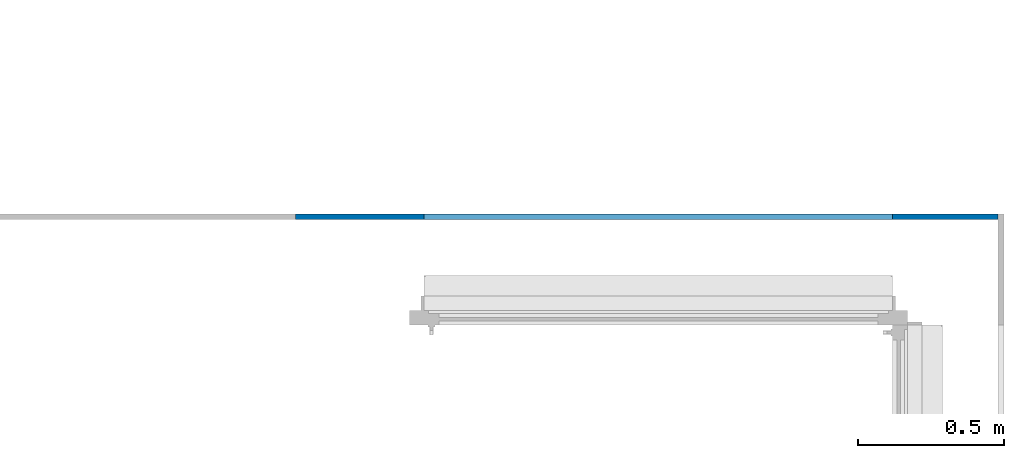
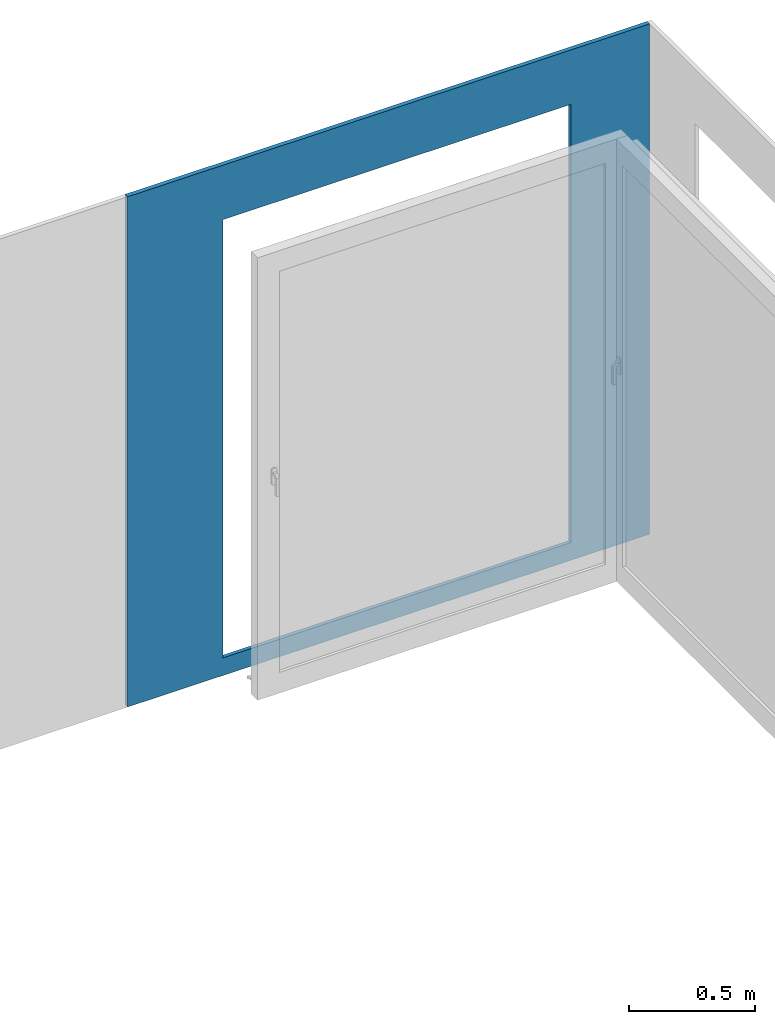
# One storey, part 2 of 6: 1 wall, 3 openings.
"""IFC2X3 building model written with IfcOpenShell, lengths in centimetres."""

from ifc_helpers import new_model, entity, si_unit, converted_unit, derived_unit, direction, frame, frame_2d, origin, place, context, subcontext, project, spatial, rectangle, extrude, clip, halfspace, faceted_brep, material, layer, layer_set, layer_usage, type_object, element, save


model = new_model("IFC2X3")

# Units and contexts
model_context = context("Model", 3, precision=0.001, world=origin(), true_north=direction((6.12303176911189e-17, 1.0)))
body_context = subcontext(model_context, "Body", "Model", "MODEL_VIEW")
ifc_project = project(units=[si_unit("LENGTHUNIT", "METRE", prefix="CENTI"), si_unit("AREAUNIT", "SQUARE_METRE"), si_unit("VOLUMEUNIT", "CUBIC_METRE"), converted_unit("PLANEANGLEUNIT", "DEGREE", entity("IfcRatioMeasure", 0.0174532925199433), si_unit("PLANEANGLEUNIT", "RADIAN"), dimensions=[0, 0, 0, 0, 0, 0, 0]), si_unit("MASSUNIT", "GRAM", prefix="KILO"), derived_unit("MASSDENSITYUNIT", [(si_unit("MASSUNIT", "GRAM", prefix="KILO"), 1), (si_unit("LENGTHUNIT", "METRE"), -3)]), derived_unit("MOMENTOFINERTIAUNIT", [(si_unit("LENGTHUNIT", "METRE"), 4)]), si_unit("TIMEUNIT", "SECOND"), si_unit("FREQUENCYUNIT", "HERTZ"), si_unit("THERMODYNAMICTEMPERATUREUNIT", "DEGREE_CELSIUS"), derived_unit("THERMALTRANSMITTANCEUNIT", [(si_unit("MASSUNIT", "GRAM", prefix="KILO"), 1), (si_unit("THERMODYNAMICTEMPERATUREUNIT", "KELVIN"), -1), (si_unit("TIMEUNIT", "SECOND"), -3)]), derived_unit("VOLUMETRICFLOWRATEUNIT", [(si_unit("LENGTHUNIT", "METRE"), 3), (si_unit("TIMEUNIT", "SECOND"), -1)]), si_unit("ELECTRICCURRENTUNIT", "AMPERE"), si_unit("ELECTRICVOLTAGEUNIT", "VOLT"), si_unit("POWERUNIT", "WATT"), si_unit("FORCEUNIT", "NEWTON", prefix="KILO"), si_unit("ILLUMINANCEUNIT", "LUX"), si_unit("LUMINOUSFLUXUNIT", "LUMEN"), si_unit("LUMINOUSINTENSITYUNIT", "CANDELA"), derived_unit("USERDEFINED", [(si_unit("MASSUNIT", "GRAM", prefix="KILO"), -1), (si_unit("LENGTHUNIT", "METRE"), -2), (si_unit("TIMEUNIT", "SECOND"), 3), (si_unit("LUMINOUSFLUXUNIT", "LUMEN"), 1)]), derived_unit("LINEARVELOCITYUNIT", [(si_unit("LENGTHUNIT", "METRE"), 1), (si_unit("TIMEUNIT", "SECOND"), -1)]), si_unit("PRESSUREUNIT", "PASCAL"), derived_unit("USERDEFINED", [(si_unit("LENGTHUNIT", "METRE"), -2), (si_unit("MASSUNIT", "GRAM", prefix="KILO"), 1), (si_unit("TIMEUNIT", "SECOND"), -2)]), derived_unit("LINEARFORCEUNIT", [(si_unit("MASSUNIT", "GRAM", prefix="KILO"), 1), (si_unit("LENGTHUNIT", "METRE"), 1), (si_unit("TIMEUNIT", "SECOND"), -2), (si_unit("LENGTHUNIT", "METRE"), -1)]), derived_unit("PLANARFORCEUNIT", [(si_unit("MASSUNIT", "GRAM", prefix="KILO"), 1), (si_unit("LENGTHUNIT", "METRE"), 1), (si_unit("TIMEUNIT", "SECOND"), -2), (si_unit("LENGTHUNIT", "METRE"), -2)])], contexts=[model_context])

# Site, building, storey
site_placement = place(None, origin())
site = spatial("IfcSite", under=ifc_project, at=site_placement, Name="Surface", CompositionType="ELEMENT")
building_placement = place(site_placement, origin())
building = spatial("IfcBuilding", under=site, at=building_placement, CompositionType="ELEMENT")
storey_placement = place(building_placement, origin())
storey = spatial("IfcBuildingStorey", under=building, at=storey_placement, Name="1_Rez-de-chaussée", CompositionType="ELEMENT", Elevation=-7.93413063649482e-11)

# Wall, openings
ifc_material = material(Name="Maçonnerie - Enduit")
ifc_layer = layer(ifc_material, 2.0)
ifc_layer_set = layer_set([ifc_layer], Name="Mur de base:Enduit 2")
ifc_layer_usage = layer_usage(ifc_layer_set, "AXIS2", "POSITIVE", -1.0)
wall_type = type_object("IfcWallType", Name="Mur de base:Enduit 2", PredefinedType="STANDARD", material=ifc_layer_set)
wall_placement = place(storey_placement, frame((-652.177260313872, 722.992317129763, -8.0), z_axis=(0.0, 0.0, 1.0), x_axis=(-1.0, 0.0, 0.0)))
wall = element("IfcWallStandardCase", 1, at=wall_placement, inside=storey, type_object=wall_type, material=ifc_layer_usage, Name="Mur de base:Enduit 2", ObjectType="Mur de base:Enduit 2", context=body_context, shape_type="Clipping", body=[
    clip(extrude(rectangle(XDim=239.999999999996, YDim=1.99999999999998, at=frame_2d((119.999999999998, 7.27196081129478e-15), x_axis=(-1.0, 0.0))), origin(), (0.0, 0.0, 1.0), 248.0), halfspace(frame((0.0, 0.0, -8.0)), True)),
])
opening_1_placement = place(wall_placement, frame((643.0, 79.0, 8.0)))
element("IfcOpeningElement", 2, at=opening_1_placement, cuts=wall, Name="Mur de base:Enduit 2", ObjectType="Opening", context=body_context, shape_type="Brep", body=[
    faceted_brep([(-5.0, -50.0, 3.50000000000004), (-5.0, -52.0, 3.50000000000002), (-5.0, -52.0, 213.5), (-5.0, -100.0, 213.5), (-5.0, -100.0, 0.0), (-5.0, -83.3002755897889, 0.0), (-245.0, 0.0, 3.50000000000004), (-245.0, -42.0, 3.50000000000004), (-245.0, -42.0, 213.5), (-245.0, 0.0, 213.5), (-5.0, 0.0, 3.50000000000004), (-5.0, -42.0, 3.50000000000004), (0.0, -42.0, 3.50000000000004), (0.0, -47.0, 3.50000000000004), (-4.0, -47.0, 3.50000000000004), (-4.0, -52.0, 3.50000000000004), (-245.0, -50.0, 3.50000000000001), (-245.0, -52.0, 3.50000000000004), (-246.0, -52.0, 3.50000000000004), (-246.0, -47.0, 3.50000000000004), (-250.0, -47.0, 3.50000000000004), (-250.0, -42.0, 3.50000000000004), (-5.0, 0.0, 213.5), (-245.0, -52.0, 213.5), (-245.0, -100.0, 213.5), (-245.0, -100.0, 0.0), (-245.0, -83.3002755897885, 0.0), (0.0, -42.0, 218.5), (0.0, -47.0, 218.5), (-250.0, -47.0, 218.5), (-246.0, -47.0, 214.5), (-4.0, -47.0, 214.5), (-4.0, -52.0, 214.5), (-246.0, -52.0, 214.5), (-5.0, -42.0, 213.5), (-250.0, -42.0, 218.5)], [[[0, 1, 2, 3, 4, 5]], [[6, 7, 8, 9]], [[10, 11, 12, 13, 14, 15, 1, 0, 16, 17, 18, 19, 20, 21, 7, 6]], [[10, 6, 9, 22]], [[3, 2, 23, 24]], [[3, 24, 25, 4]], [[4, 25, 26, 5]], [[5, 26, 16, 0]], [[12, 27, 28, 13]], [[13, 28, 29, 20, 19, 30, 31, 14]], [[14, 31, 32, 15]], [[15, 32, 33, 18, 17, 23, 2, 1]], [[11, 34, 8, 7, 21, 35, 27, 12]], [[27, 35, 29, 28]], [[30, 33, 32, 31]], [[29, 35, 21, 20]], [[19, 18, 33, 30]], [[9, 8, 34, 22]], [[24, 23, 17, 16, 26, 25]], [[22, 34, 11, 10]]]),
])
opening_2_placement = place(wall_placement, frame((201.0, 79.0, 8.0)))
element("IfcOpeningElement", 3, at=opening_2_placement, cuts=wall, Name="Mur de base:Enduit 2", ObjectType="Opening", context=body_context, shape_type="Brep", body=[
    faceted_brep([(-5.0, -50.0, 3.50000000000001), (-5.0, -52.0, 3.5), (-5.0, -52.0, 213.5), (-5.0, -100.0, 213.5), (-5.0, -100.0, 0.0), (-5.0, -83.3002755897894, 0.0), (-165.0, 0.0, 3.50000000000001), (-165.0, -42.0, 3.50000000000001), (-165.0, -42.0, 213.5), (-165.0, 0.0, 213.5), (-5.0, 0.0, 3.50000000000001), (-5.0, -42.0, 3.50000000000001), (0.0, -42.0, 3.50000000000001), (0.0, -47.0, 3.50000000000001), (-4.0, -47.0, 3.50000000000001), (-4.0, -52.0, 3.50000000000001), (-165.0, -50.0, 3.49999999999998), (-165.0, -52.0, 3.50000000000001), (-166.0, -52.0, 3.50000000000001), (-166.0, -47.0, 3.50000000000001), (-170.0, -47.0, 3.50000000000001), (-170.0, -42.0, 3.50000000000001), (-5.0, 0.0, 213.5), (-165.0, -52.0, 213.5), (-165.0, -100.0, 213.5), (-165.0, -100.0, 0.0), (-165.0, -83.3002755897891, 0.0), (0.0, -42.0, 218.5), (0.0, -47.0, 218.5), (-170.0, -47.0, 218.5), (-166.0, -47.0, 214.5), (-4.0, -47.0, 214.5), (-4.0, -52.0, 214.5), (-166.0, -52.0, 214.5), (-5.0, -42.0, 213.5), (-170.0, -42.0, 218.5)], [[[0, 1, 2, 3, 4, 5]], [[6, 7, 8, 9]], [[10, 11, 12, 13, 14, 15, 1, 0, 16, 17, 18, 19, 20, 21, 7, 6]], [[10, 6, 9, 22]], [[3, 2, 23, 24]], [[3, 24, 25, 4]], [[4, 25, 26, 5]], [[5, 26, 16, 0]], [[12, 27, 28, 13]], [[13, 28, 29, 20, 19, 30, 31, 14]], [[14, 31, 32, 15]], [[15, 32, 33, 18, 17, 23, 2, 1]], [[11, 34, 8, 7, 21, 35, 27, 12]], [[27, 35, 29, 28]], [[30, 33, 32, 31]], [[29, 35, 21, 20]], [[19, 18, 33, 30]], [[9, 8, 34, 22]], [[24, 23, 17, 16, 26, 25]], [[22, 34, 11, 10]]]),
])
opening_3_placement = place(wall_placement, frame((78.0, 222.0, 8.0)))
element("IfcOpeningElement", 4, at=opening_3_placement, cuts=wall, Name="Mur de base:Enduit 2", ObjectType="Opening", context=body_context, shape_type="Brep", body=[
    faceted_brep([(-50.0, -185.0, 3.50000000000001), (-52.0, -185.0, 3.5), (-52.0, -185.0, 213.5), (-100.0, -185.0, 213.5), (-100.0, -185.0, 0.0), (-83.3002755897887, -185.0, 0.0), (0.0, -5.0, 3.50000000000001), (-42.0, -5.0, 3.50000000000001), (-42.0, -5.0, 213.5), (0.0, -5.0, 213.5), (0.0, -185.0, 3.50000000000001), (-42.0, -185.0, 3.50000000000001), (-42.0, -190.0, 3.50000000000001), (-47.0, -190.0, 3.50000000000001), (-47.0, -186.0, 3.50000000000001), (-52.0, -186.0, 3.50000000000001), (-50.0, -5.0, 3.49999999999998), (-52.0, -5.0, 3.50000000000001), (-52.0, -4.0, 3.50000000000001), (-47.0, -4.0, 3.50000000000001), (-47.0, 0.0, 3.50000000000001), (-42.0, 0.0, 3.50000000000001), (0.0, -185.0, 213.5), (-52.0, -5.0, 213.5), (-100.0, -5.0, 213.5), (-100.0, -5.0, 0.0), (-83.3002755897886, -5.0, 0.0), (-42.0, -190.0, 218.5), (-47.0, -190.0, 218.5), (-47.0, 0.0, 218.5), (-47.0, -4.0, 214.5), (-47.0, -186.0, 214.5), (-52.0, -186.0, 214.5), (-52.0, -4.0, 214.5), (-42.0, -185.0, 213.5), (-42.0, 0.0, 218.5)], [[[0, 1, 2, 3, 4, 5]], [[6, 7, 8, 9]], [[10, 11, 12, 13, 14, 15, 1, 0, 16, 17, 18, 19, 20, 21, 7, 6]], [[10, 6, 9, 22]], [[3, 2, 23, 24]], [[3, 24, 25, 4]], [[4, 25, 26, 5]], [[5, 26, 16, 0]], [[12, 27, 28, 13]], [[13, 28, 29, 20, 19, 30, 31, 14]], [[14, 31, 32, 15]], [[15, 32, 33, 18, 17, 23, 2, 1]], [[11, 34, 8, 7, 21, 35, 27, 12]], [[27, 35, 29, 28]], [[30, 33, 32, 31]], [[29, 35, 21, 20]], [[19, 18, 33, 30]], [[9, 8, 34, 22]], [[24, 23, 17, 16, 26, 25]], [[22, 34, 11, 10]]]),
])

save(model, "model.ifc")
